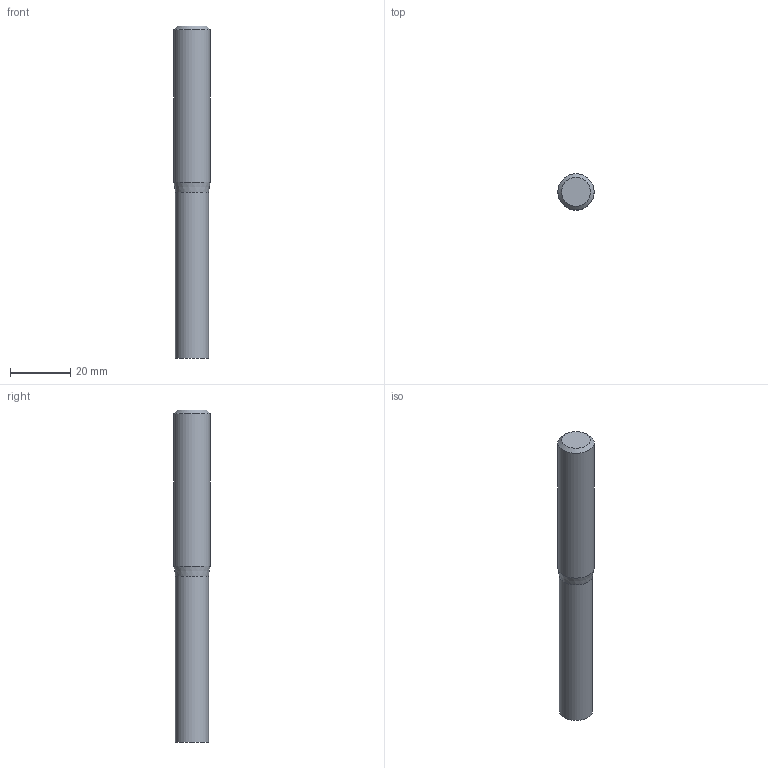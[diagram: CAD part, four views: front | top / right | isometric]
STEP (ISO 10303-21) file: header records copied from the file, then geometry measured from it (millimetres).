
FILE_DESCRIPTION((''),'2;1');
FILE_NAME('C:\Users\nsx150\AppData\Local\Temp\Mastercam 2021\W9Z147XDNF\TEMP.step','2021-04-08T14:49:55',(''),(''),'STEP Write','Mastercam 2021 ... CNC Software, Inc.','');
FILE_SCHEMA(('AUTOMOTIVE_DESIGN'));
Length unit declared in the file: millimetre
Products named in the file (1): None
Bounding box: 12 x 12 x 110 mm (x, y, z)
Volume: 11392.9 mm3; surface area: 4340.4 mm2
Topology: 2 solids, 2 shells, 8 faces, 10 edges, 6 vertices
Faces by surface type: plane 4, cylinder 2, cone 2
Full cylindrical faces by diameter (mm): 11 x1, 12 x1
Entity records: 190 total; most frequent: DIRECTION 32, CARTESIAN_POINT 22, AXIS2_PLACEMENT_3D 16, ORIENTED_EDGE 12, EDGE_LOOP 12, STYLED_ITEM 11, ADVANCED_FACE 8, VERTEX_POINT 6
